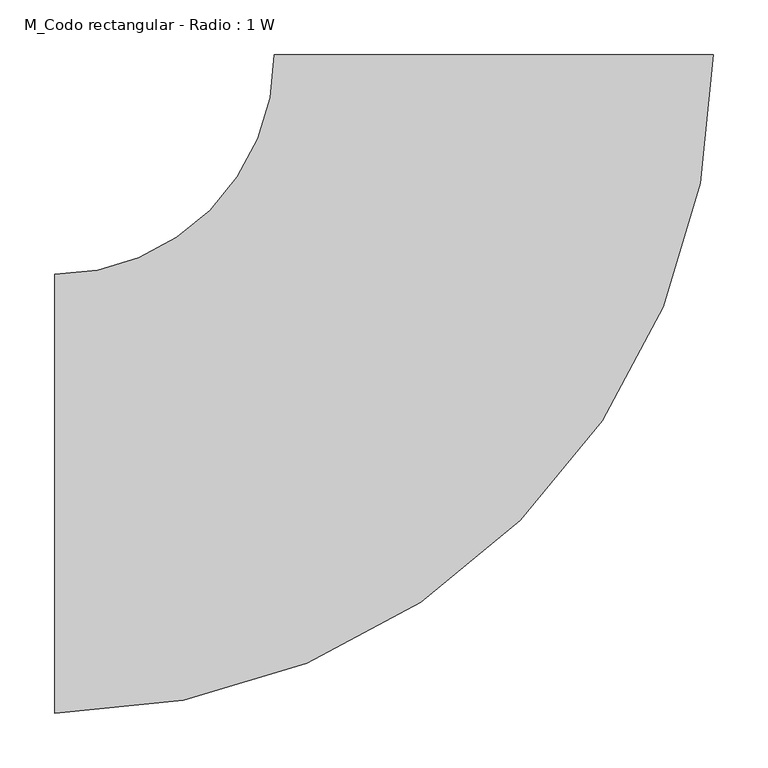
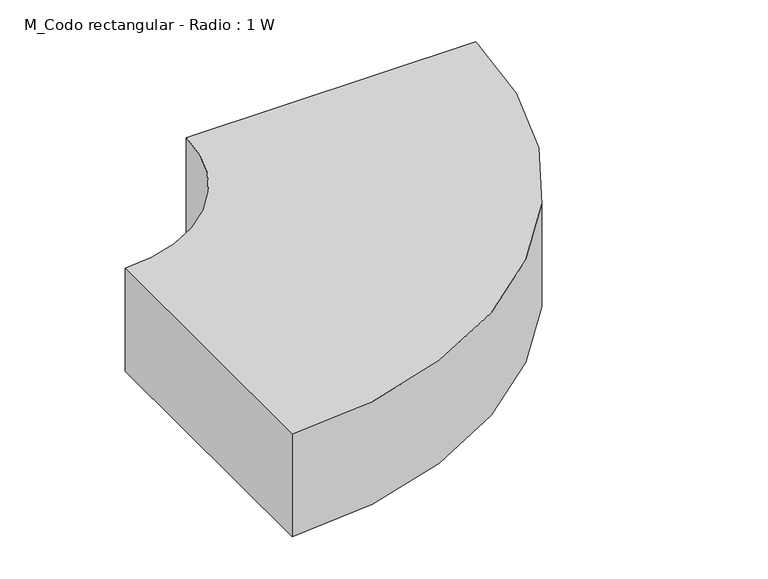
"""IFC4 building model written with IfcOpenShell, lengths in millimetres: duct fitting geometry, M_Codo rectangular - Radio : 1 W."""

from ifc_helpers import new_model, si_unit, point, frame, frame_2d, origin, place, context, project, spatial, polyline, circle_curve, trimmed, segment, composite_curve, outline, extrude, source, transform, mapped, element, save


def m_codo_rectangular_radio_1_w_90a27884(model_context):
    return source(origin(), model_context, "Body", "SweptSolid", [
        extrude(outline(composite_curve([segment(trimmed(circle_curve(frame_2d((-400.0, 400.0)), 600.0), [point((200.0, 400.0))], [point((-400.0, -200.0))], False, "CARTESIAN"), True, "CONTINUOUS"), segment(polyline([(-400.0, -200.0), (-400.0, 200.0)]), True, "CONTINUOUS"), segment(trimmed(circle_curve(frame_2d((-400.0, 400.0)), 200.0), [point((-400.0, 200.0))], [point((-200.0, 400.0))], True, "CARTESIAN"), True, "CONTINUOUS"), segment(polyline([(-200.0, 400.0), (200.0, 400.0)]), True, "CONTINUOUS")], self_intersect=False)), frame((0.0, 0.0, -75.0), z_axis=(0.0, 0.0, 1.0), x_axis=(1.0, 0.0, 0.0)), (0.0, 0.0, 1.0), 150.0),
    ])


if __name__ == "__main__":
    model = new_model("IFC4")
    model_context = context("Model", 3, world=origin())
    ifc_project = project(units=[si_unit("LENGTHUNIT", "METRE", prefix="MILLI")], contexts=[model_context])
    site = spatial("IfcSite", under=ifc_project)
    building = spatial("IfcBuilding", under=site)
    placement = place(None, origin())
    m_codo_rectangular_radio_1_w_shape = m_codo_rectangular_radio_1_w_90a27884(model_context)
    element("IfcDuctFitting", 1, ObjectType="M_Codo rectangular - Radio : 1 W", at=placement, inside=building, context=model_context, shape_type="MappedRepresentation", body=[
        mapped(m_codo_rectangular_radio_1_w_shape, transform((0.0, 0.0, 0.0), x_axis=(1.0, 0.0, 0.0), y_axis=(0.0, 1.0, 0.0), z_axis=(0.0, 0.0, 1.0))),
    ])
    save(model, "model.ifc")
